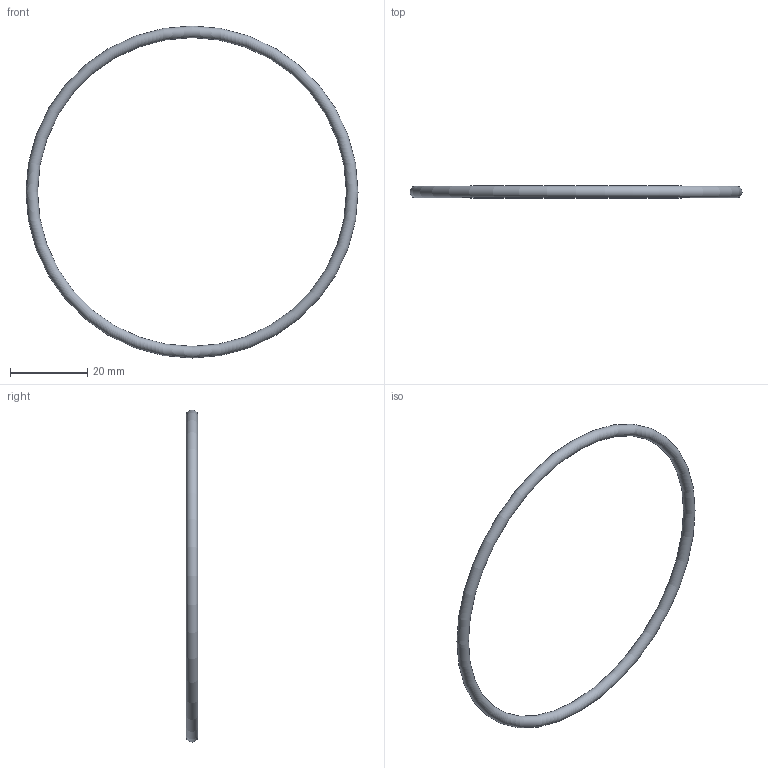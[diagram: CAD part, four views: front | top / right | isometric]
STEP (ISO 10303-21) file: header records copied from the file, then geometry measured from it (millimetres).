
FILE_DESCRIPTION( ( 'STEP AP203' ), '1' );
FILE_NAME( 'C:/Temp/Ganter_Step_05_03_2020/data/3_5/or638/O-Ring OR638-80.00-3.00-70.stp', '2020-03-12T13:44:32', ( 'License CC BY-ND 4.0' ), ( 'CADENAS' ), ' ', 'PARTsolutions', ' ' );
FILE_SCHEMA( ( 'CONFIG_CONTROL_DESIGN' ) );
Length unit declared in the file: millimetre
Products named in the file (1): _O-Ring OR638-80.00-3.00-70
Bounding box: 86 x 3 x 86 mm (x, y, z)
Volume: 1843.1 mm3; surface area: 2457.5 mm2
Topology: 1 solids, 1 shells, 1 faces, 2 edges, 1 vertices
Faces by surface type: torus 1
Entity records: 62 total; most frequent: CC_DESIGN_PERSON_AND_ORGANIZATION_ASSIGNMENT 5, PERSON_AND_ORGANIZATION_ROLE 4, DIRECTION 4, CARTESIAN_POINT 3, DATE_TIME_ROLE 2, CC_DESIGN_DATE_AND_TIME_ASSIGNMENT 2, AXIS2_PLACEMENT_3D 2, DIMENSIONAL_EXPONENTS 2
